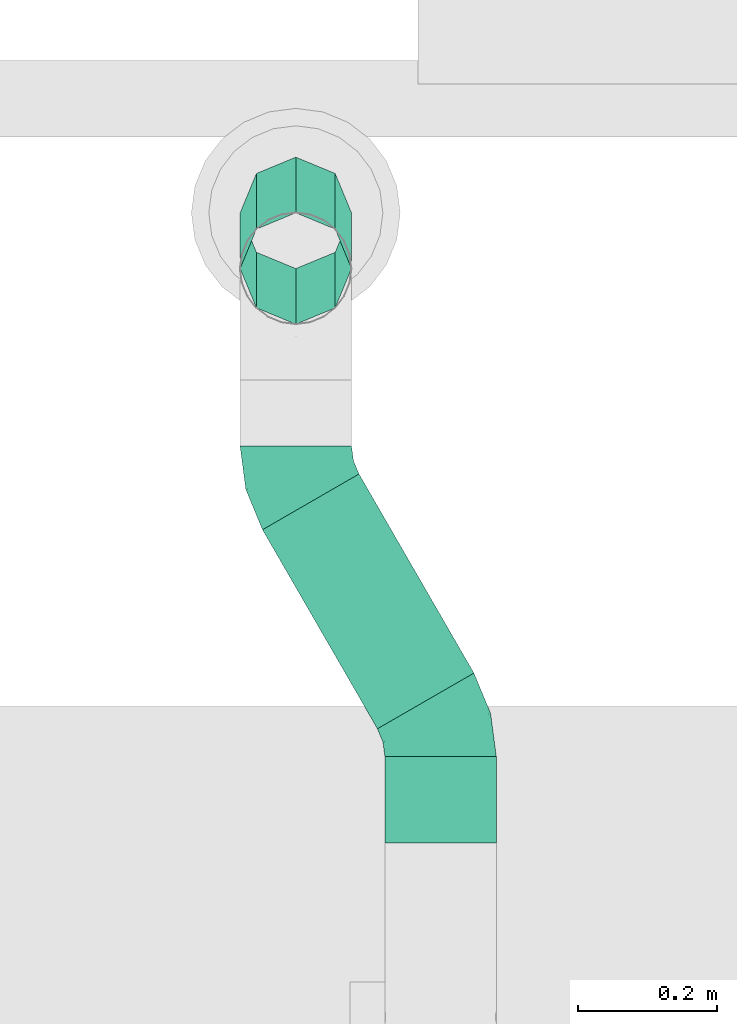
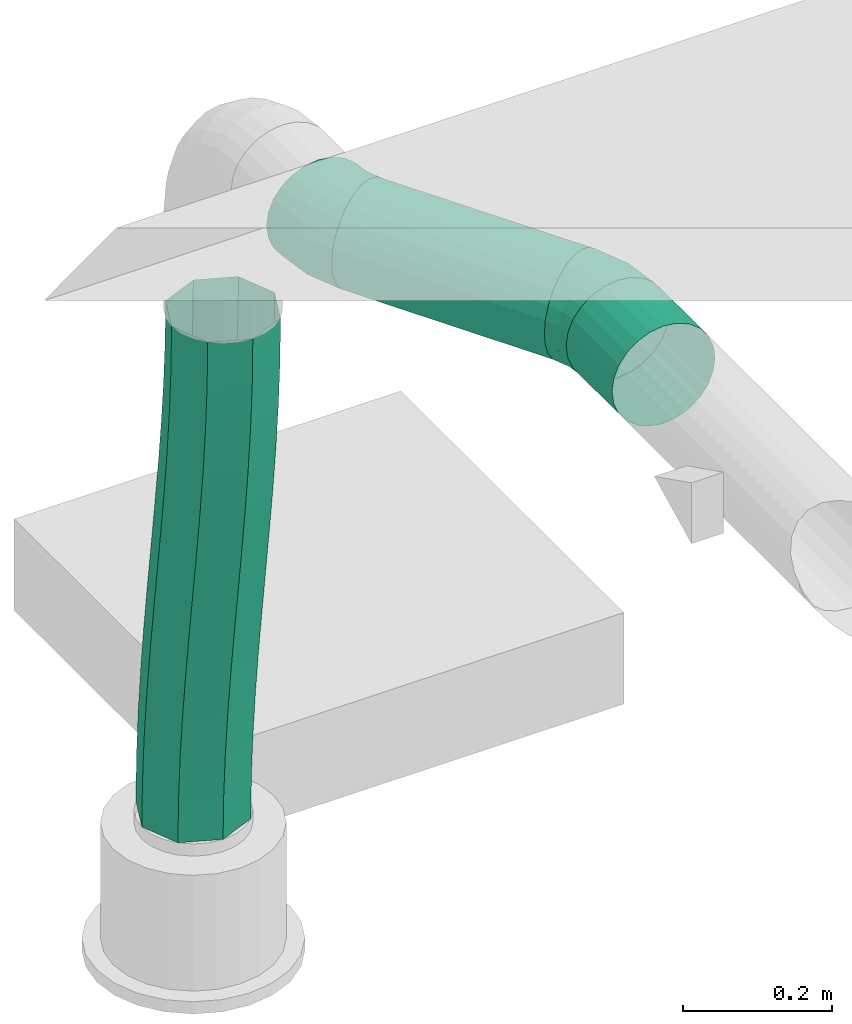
# One storey, part 310 of 374: 3 flow segments, 2 flow fittings.
"""IFC2X3 building model written with IfcOpenShell, lengths in metres."""

from ifc_helpers import new_model, si_unit, direction, origin, place, context, subcontext, project, spatial, open_shell, surface_model, source, transform, mapped, element, save


model = new_model("IFC2X3")

# Units and contexts
model_context = context("Model", 3, precision=1e-05, world=origin(), true_north=direction((-0.4480736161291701, 0.8939966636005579)))
body_context = subcontext(model_context, "Body", "Model", "MODEL_VIEW")
ifc_project = project(units=[si_unit("LENGTHUNIT", "METRE"), si_unit("AREAUNIT", "SQUARE_METRE"), si_unit("VOLUMEUNIT", "CUBIC_METRE"), si_unit("PLANEANGLEUNIT", "RADIAN"), si_unit("THERMODYNAMICTEMPERATUREUNIT", "KELVIN"), si_unit("MASSUNIT", "GRAM", prefix="KILO"), si_unit("TIMEUNIT", "SECOND")], contexts=[model_context])

# Site, building, storey
site_placement = place(None, origin())
site = spatial("IfcSite", under=ifc_project, at=site_placement, Name="Site 1", CompositionType="ELEMENT")
building_placement = place(site_placement, origin())
building = spatial("IfcBuilding", under=site, at=building_placement, Name="Undefined", CompositionType="ELEMENT")
storey_placement = place(building_placement, origin())
storey = spatial("IfcBuildingStorey", under=building, at=storey_placement, Name="Rez de chauss\x8ee", CompositionType="ELEMENT", Elevation=0.0)

# Flow segment
shared_shape_1 = source(origin(), body_context, "Body", "SurfaceModel", [
    surface_model("IfcFaceBasedSurfaceModel", [(0.09425708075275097, 0.0, -7.105427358e-15), (0.05356602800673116, 0.04575228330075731, 0.0), (0.0, 0.0, 0.0), (0.03894014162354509, -0.0472514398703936, -1.1507275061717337e-06), (-0.05541274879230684, -0.04404153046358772, 0.0010358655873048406), (-0.01799366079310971, -0.0925064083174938, 0.001061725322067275), (-0.11243305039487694, -0.0867910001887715, 0.002911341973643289), (-0.07622095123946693, -0.13616420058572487, 0.002975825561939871), (-0.1707571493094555, -0.12862218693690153, 0.005426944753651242), (-0.13541835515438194, -0.1786241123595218, 0.0055283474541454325), (-0.23007333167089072, -0.16991458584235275, 0.00837924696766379), (-0.19526249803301, -0.22028543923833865, 0.008506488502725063), (-0.29006424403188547, -0.21105506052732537, 0.011560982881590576), (-0.2554300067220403, -0.26154747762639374, 0.01169744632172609), (-0.35040835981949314, -0.25243868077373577, 0.01476117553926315), (-0.315597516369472, -0.30280952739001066, 0.014888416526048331), (-0.4107804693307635, -0.294468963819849, 0.01776518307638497), (-0.3754416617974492, -0.3444708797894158, 0.01786658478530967), (-0.4708511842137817, -0.3375576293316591, 0.020354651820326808), (-0.4346390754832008, -0.3869308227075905, 0.020419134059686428), (-0.5302854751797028, -0.3821237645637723, 0.022307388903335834), (-0.49286638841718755, -0.4305886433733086, 0.022333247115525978), (-0.5887403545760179, -0.4285921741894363, 0.02339725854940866), (-0.5498002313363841, -0.4758436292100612, 0.023396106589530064), (-0.6458082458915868, -0.4773427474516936, 0.023394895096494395), (-0.6051172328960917, -0.5230950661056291, 0.02339489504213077), (0.025061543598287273, 0.07834277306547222, -0.043294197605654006), (-0.02777923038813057, 0.03321146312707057, -0.04329372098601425), (-0.08256193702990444, -0.010327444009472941, -0.04226904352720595), (-0.1390822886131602, -0.05270067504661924, -0.040409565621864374), (-0.19704465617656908, -0.09427143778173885, -0.037909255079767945), (-0.2561421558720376, -0.13541102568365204, -0.034967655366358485), (-0.31605992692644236, -0.1765011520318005, -0.03178973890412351), (-0.3764772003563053, -0.21793513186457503, -0.02858572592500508), (-0.4370679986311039, -0.2601182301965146, -0.02557101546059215), (-0.4975004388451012, -0.30346731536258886, -0.022966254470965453), (-0.5574346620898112, -0.34840967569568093, -0.02099751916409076), (-0.6165195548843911, -0.3953806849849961, -0.0198964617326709), (-0.6743126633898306, -0.4447521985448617, -0.019899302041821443), (0.025441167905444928, 0.07868040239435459, -0.10452143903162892), (-0.028124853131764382, 0.032928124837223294, -0.10452143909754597), (-0.08353759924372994, -0.011113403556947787, -0.10348557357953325), (-0.14055790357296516, -0.05386287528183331, -0.10161009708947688), (-0.19888201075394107, -0.09569406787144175, -0.09909449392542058), (-0.2581982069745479, -0.13698647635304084, -0.09614219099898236), (-0.3181891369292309, -0.17812696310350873, -0.09296045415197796), (-0.37853326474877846, -0.21951059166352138, -0.08976026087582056), (-0.4389053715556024, -0.26154087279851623, -0.08675625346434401), (-0.4989760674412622, -0.304629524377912, -0.08416678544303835), (-0.5584103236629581, -0.34919563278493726, -0.08221404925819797), (-0.6168651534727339, -0.39566400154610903, -0.08112418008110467), (-0.6739329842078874, -0.444414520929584, -0.08112654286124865), (0.05448252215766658, 0.04656739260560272, -0.14781563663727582), (-0.0008344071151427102, -0.0006840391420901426, -0.1478167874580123), (-0.05776820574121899, -0.0459390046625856, -0.1467539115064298), (-0.11599550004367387, -0.0895967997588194, -0.14483981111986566), (-0.17519291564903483, -0.13205671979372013, -0.14228728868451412), (-0.23503707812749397, -0.17371806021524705, -0.13930914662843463), (-0.29520461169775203, -0.21498011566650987, -0.13611818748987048), (-0.35537213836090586, -0.25624217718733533, -0.13292721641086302), (-0.4152162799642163, -0.29790352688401, -0.12994904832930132), (-0.47441366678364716, -0.34036345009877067, -0.12739650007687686), (-0.5326409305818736, -0.3840212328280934, -0.12548238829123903), (-0.5895747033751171, -0.429276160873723, -0.12441952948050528), (-0.6448916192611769, -0.476527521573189, -0.124420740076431), (0.09517357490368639, 0.0008151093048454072, -0.1478156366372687), (0.038105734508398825, -0.047935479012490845, -0.14781793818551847), (-0.020349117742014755, -0.09440388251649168, -0.14672805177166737), (-0.07978340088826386, -0.13897000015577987, -0.14477532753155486), (-0.13985412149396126, -0.18205864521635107, -0.14218588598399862), (-0.2002262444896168, -0.22408891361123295, -0.13918190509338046), (-0.26057037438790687, -0.26547253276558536, -0.13598172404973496), (-0.3205612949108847, -0.30661302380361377, -0.13279997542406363), (-0.379877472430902, -0.3479054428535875, -0.12984764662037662), (-0.4382015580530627, -0.3897366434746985, -0.12733201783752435), (-0.49522184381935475, -0.43248611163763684, -0.1254565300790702), (-0.5506345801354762, -0.476527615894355, -0.1244206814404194), (-0.6042006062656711, -0.5222798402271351, -0.12442074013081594), (0.12367805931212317, -0.031775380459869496, -0.1045214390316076), (0.0658849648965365, -0.08114694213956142, -0.10452421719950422), (0.006800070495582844, -0.12811796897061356, -0.10342314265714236), (-0.05313416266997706, -0.17306032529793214, -0.10145441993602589), (-0.11356661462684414, -0.2164093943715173, -0.09884968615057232), (-0.17415742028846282, -0.2585924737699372, -0.09583500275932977), (-0.23457469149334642, -0.3000264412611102, -0.09263100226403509), (-0.294492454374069, -0.3411165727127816, -0.0894530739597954), (-0.35358994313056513, -0.38225617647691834, -0.0865114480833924), (-0.41155230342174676, -0.42382695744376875, -0.08401111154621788), (-0.4680726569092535, -0.4662002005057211, -0.0821516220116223), (-0.5228553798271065, -0.5097391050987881, -0.08112696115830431), (-0.5756961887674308, -0.5548703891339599, -0.0811265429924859), (0.12329843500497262, -0.03211300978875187, -0.043294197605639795), (0.06623058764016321, -0.08086360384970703, -0.043296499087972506), (0.00777573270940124, -0.1273320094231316, -0.042206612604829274), (-0.05165854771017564, -0.1718981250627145, -0.040253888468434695), (-0.1117292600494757, -0.2149867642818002, -0.0376644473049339), (-0.17210136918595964, -0.2570170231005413, -0.03466046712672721), (-0.23244548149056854, -0.2984006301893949, -0.03146028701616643), (-0.2924363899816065, -0.3395411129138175, -0.028278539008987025), (-0.3517525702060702, -0.38083353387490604, -0.025326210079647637), (-0.4100766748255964, -0.4226647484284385, -0.022810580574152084), (-0.46709699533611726, -0.4654142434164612, -0.020935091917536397), (-0.5225097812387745, -0.509455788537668, -0.019899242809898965), (-0.5760758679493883, -0.5552080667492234, -0.019899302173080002)], [open_shell([[[0, 1, 2]], [[2, 3, 0]], [[3, 2, 4]], [[4, 5, 3]], [[5, 4, 6]], [[6, 7, 5]], [[7, 6, 8]], [[8, 9, 7]], [[9, 8, 10]], [[10, 11, 9]], [[11, 10, 12]], [[12, 13, 11]], [[13, 12, 14]], [[14, 15, 13]], [[15, 14, 16]], [[16, 17, 15]], [[17, 16, 18]], [[18, 19, 17]], [[19, 18, 20]], [[20, 21, 19]], [[21, 20, 22]], [[22, 23, 21]], [[23, 22, 24]], [[24, 25, 23]], [[1, 26, 27]], [[27, 2, 1]], [[2, 27, 28]], [[28, 4, 2]], [[4, 28, 29]], [[29, 6, 4]], [[6, 29, 30]], [[30, 8, 6]], [[8, 30, 31]], [[31, 10, 8]], [[10, 31, 32]], [[32, 12, 10]], [[12, 32, 33]], [[33, 14, 12]], [[14, 33, 34]], [[34, 16, 14]], [[16, 34, 35]], [[35, 18, 16]], [[18, 35, 36]], [[36, 20, 18]], [[20, 36, 37]], [[37, 22, 20]], [[22, 37, 38]], [[38, 24, 22]], [[26, 39, 40]], [[40, 27, 26]], [[27, 40, 41]], [[41, 28, 27]], [[28, 41, 42]], [[42, 29, 28]], [[29, 42, 43]], [[43, 30, 29]], [[30, 43, 44]], [[44, 31, 30]], [[31, 44, 45]], [[45, 32, 31]], [[32, 45, 46]], [[46, 33, 32]], [[33, 46, 47]], [[47, 34, 33]], [[34, 47, 48]], [[48, 35, 34]], [[35, 48, 49]], [[49, 36, 35]], [[36, 49, 50]], [[50, 37, 36]], [[37, 50, 51]], [[51, 38, 37]], [[39, 52, 53]], [[53, 40, 39]], [[40, 53, 54]], [[54, 41, 40]], [[41, 54, 55]], [[55, 42, 41]], [[42, 55, 56]], [[56, 43, 42]], [[43, 56, 57]], [[57, 44, 43]], [[44, 57, 58]], [[58, 45, 44]], [[45, 58, 59]], [[59, 46, 45]], [[46, 59, 60]], [[60, 47, 46]], [[47, 60, 61]], [[61, 48, 47]], [[48, 61, 62]], [[62, 49, 48]], [[49, 62, 63]], [[63, 50, 49]], [[50, 63, 64]], [[64, 51, 50]], [[52, 65, 66]], [[66, 53, 52]], [[53, 66, 67]], [[67, 54, 53]], [[54, 67, 68]], [[68, 55, 54]], [[55, 68, 69]], [[69, 56, 55]], [[56, 69, 70]], [[70, 57, 56]], [[57, 70, 71]], [[71, 58, 57]], [[58, 71, 72]], [[72, 59, 58]], [[59, 72, 73]], [[73, 60, 59]], [[60, 73, 74]], [[74, 61, 60]], [[61, 74, 75]], [[75, 62, 61]], [[62, 75, 76]], [[76, 63, 62]], [[63, 76, 77]], [[77, 64, 63]], [[65, 78, 79]], [[79, 66, 65]], [[66, 79, 80]], [[80, 67, 66]], [[67, 80, 81]], [[81, 68, 67]], [[68, 81, 82]], [[82, 69, 68]], [[69, 82, 83]], [[83, 70, 69]], [[70, 83, 84]], [[84, 71, 70]], [[71, 84, 85]], [[85, 72, 71]], [[72, 85, 86]], [[86, 73, 72]], [[73, 86, 87]], [[87, 74, 73]], [[74, 87, 88]], [[88, 75, 74]], [[75, 88, 89]], [[89, 76, 75]], [[76, 89, 90]], [[90, 77, 76]], [[78, 91, 92]], [[92, 79, 78]], [[79, 92, 93]], [[93, 80, 79]], [[80, 93, 94]], [[94, 81, 80]], [[81, 94, 95]], [[95, 82, 81]], [[82, 95, 96]], [[96, 83, 82]], [[83, 96, 97]], [[97, 84, 83]], [[84, 97, 98]], [[98, 85, 84]], [[85, 98, 99]], [[99, 86, 85]], [[86, 99, 100]], [[100, 87, 86]], [[87, 100, 101]], [[101, 88, 87]], [[88, 101, 102]], [[102, 89, 88]], [[89, 102, 103]], [[103, 90, 89]], [[91, 0, 3]], [[3, 92, 91]], [[92, 3, 5]], [[5, 93, 92]], [[93, 5, 7]], [[7, 94, 93]], [[94, 7, 9]], [[9, 95, 94]], [[95, 9, 11]], [[11, 96, 95]], [[96, 11, 13]], [[13, 97, 96]], [[97, 13, 15]], [[15, 98, 97]], [[98, 15, 17]], [[17, 99, 98]], [[99, 17, 19]], [[19, 100, 99]], [[100, 19, 21]], [[21, 101, 100]], [[101, 21, 23]], [[23, 102, 101]], [[102, 23, 25]], [[25, 103, 102]]])]),
])
flow_segment_1_placement = place(storey_placement, origin())
element("IfcFlowSegment", 1, at=flow_segment_1_placement, inside=storey, Name="Tube flexible", ObjectType="Tube flexible", context=body_context, shape_type="MappedRepresentation", body=[
    mapped(shared_shape_1, transform((48.23613901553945, 16.9303909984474, 3.409570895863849), x_axis=(-0.24859099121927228, -0.6163532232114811, 0.7472022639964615), y_axis=(0.29104620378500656, 0.6882384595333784, 0.6645449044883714), z_axis=(-0.9238477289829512, 0.3826702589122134, 0.008297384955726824))),
])

# Flow fitting
shared_shape_2 = source(origin(), body_context, "Body", "SurfaceModel", [
    surface_model("IfcFaceBasedSurfaceModel", [(0.06265257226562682, -8.8817842e-16, 0.0), (0.062296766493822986, 0.02088115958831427, -7.105427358e-15), (0.0003558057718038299, 0.020881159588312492, 7.105427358e-15), (0.0, 0.0, 0.0), (-0.059474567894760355, 0.022956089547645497, -0.015896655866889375), (-0.06051773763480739, 0.002098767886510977, -0.01607928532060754), (0.061253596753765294, 0.04103889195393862, -0.0053597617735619), (0.0013989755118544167, 0.04103889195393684, -0.005359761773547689), (-0.05641614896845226, 0.04304393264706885, -0.02072097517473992), (0.05959415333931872, 0.05909948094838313, -0.01571402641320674), (0.003058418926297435, 0.05909948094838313, -0.01571402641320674), (-0.05155090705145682, 0.06099334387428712, -0.030223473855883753), (0.057431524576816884, 0.07383212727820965, -0.030357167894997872), (0.005221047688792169, 0.07383212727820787, -0.03035716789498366), (-0.0452104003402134, 0.07558110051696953, -0.04375657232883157), (0.054913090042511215, 0.0842328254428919, -0.048291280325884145), (0.007739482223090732, 0.08423282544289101, -0.04829128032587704), (-0.037826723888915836, 0.08581307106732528, -0.06039801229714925), (0.05221047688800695, 0.0895927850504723, -0.06829418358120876), (0.010442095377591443, 0.08959278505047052, -0.06829418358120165), (-0.029903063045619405, 0.09099196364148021, -0.07901370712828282), (0.04950786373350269, 0.08954673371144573, -0.08900271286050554), (0.013144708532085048, 0.08954673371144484, -0.08900271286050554), (-0.02197940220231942, 0.09076484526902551, -0.09833502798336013), (0.04698942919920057, 0.08409780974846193, -0.10900561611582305), (0.015663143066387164, 0.08409780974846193, -0.10900561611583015), (-0.014595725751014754, 0.08514719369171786, -0.11704525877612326), (0.04482680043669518, 0.0736173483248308, -0.12693972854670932), (0.017825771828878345, 0.0736173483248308, -0.12693972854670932), (-0.008255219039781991, 0.07452184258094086, -0.13386932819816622), (0.04316735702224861, 0.058819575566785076, -0.14158287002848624), (0.019485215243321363, 0.058819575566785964, -0.14158287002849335), (-0.0033899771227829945, 0.05961289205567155, -0.14766070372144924), (0.04212418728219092, 0.040712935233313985, -0.15193713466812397), (0.020528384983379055, 0.040712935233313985, -0.15193713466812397), (-0.0003315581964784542, 0.041436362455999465, -0.15747952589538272), (0.04176838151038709, 0.02053136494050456, -0.15729689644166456), (0.020884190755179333, 0.02053136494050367, -0.15729689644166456), (0.0007116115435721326, 0.021230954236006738, -0.16265665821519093), (0.04212418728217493, -0.00034979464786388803, -0.15729689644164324), (0.02052838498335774, -0.0003497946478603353, -0.15729689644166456), (-0.00033155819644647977, 0.0003736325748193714, -0.16283928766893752), (0.04316735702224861, -0.020507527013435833, -0.15193713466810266), (0.019485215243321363, -0.020507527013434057, -0.15193713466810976), (-0.0033899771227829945, -0.019714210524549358, -0.15801496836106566), (0.04482680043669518, -0.03856811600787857, -0.1415828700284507), (0.017825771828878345, -0.03856811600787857, -0.1415828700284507), (-0.008255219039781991, -0.03766362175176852, -0.1485124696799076), (0.04698942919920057, -0.05330076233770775, -0.12693972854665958), (0.015663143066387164, -0.05330076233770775, -0.12693972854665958), (-0.014595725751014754, -0.05225137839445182, -0.1349793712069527), (0.04950786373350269, -0.06370146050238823, -0.10900561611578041), (0.013144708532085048, -0.06370146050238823, -0.10900561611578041), (-0.02197940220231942, -0.06248334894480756, -0.11833793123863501), (0.05221047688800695, -0.06906142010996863, -0.08900271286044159), (0.010442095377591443, -0.06906142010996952, -0.08900271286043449), (-0.029903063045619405, -0.06766224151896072, -0.09972223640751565), (0.054913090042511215, -0.06901536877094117, -0.06829418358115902), (0.007739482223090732, -0.06901536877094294, -0.06829418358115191), (-0.037826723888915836, -0.06743512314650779, -0.08040091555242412), (0.057431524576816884, -0.06356644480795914, -0.0482912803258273), (0.005221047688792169, -0.06356644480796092, -0.04829128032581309), (-0.0452104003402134, -0.061817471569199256, -0.0616906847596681), (0.05959415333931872, -0.05308598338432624, -0.030357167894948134), (0.003058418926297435, -0.05308598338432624, -0.030357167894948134), (-0.05155090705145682, -0.05119212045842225, -0.04486661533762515), (0.061253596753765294, -0.03828821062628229, -0.015714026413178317), (0.0013989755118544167, -0.03828821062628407, -0.015714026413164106), (-0.05641614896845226, -0.03628316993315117, -0.031075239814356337), (0.062296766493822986, -0.020181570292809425, -0.005359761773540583), (0.0003558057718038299, -0.020181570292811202, -0.0053597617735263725), (-0.059474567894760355, -0.018106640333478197, -0.021256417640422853)], [open_shell([[[0, 1, 2, 3]], [[3, 2, 4, 5]], [[1, 6, 7, 2]], [[2, 7, 8, 4]], [[6, 9, 10, 7]], [[7, 10, 11, 8]], [[9, 12, 13, 10]], [[10, 13, 14, 11]], [[12, 15, 16, 13]], [[13, 16, 17, 14]], [[15, 18, 19, 16]], [[16, 19, 20, 17]], [[18, 21, 22, 19]], [[19, 22, 23, 20]], [[21, 24, 25, 22]], [[22, 25, 26, 23]], [[24, 27, 28, 25]], [[25, 28, 29, 26]], [[27, 30, 31, 28]], [[28, 31, 32, 29]], [[30, 33, 34, 31]], [[31, 34, 35, 32]], [[33, 36, 37, 34]], [[34, 37, 38, 35]], [[36, 39, 40, 37]], [[37, 40, 41, 38]], [[39, 42, 43, 40]], [[40, 43, 44, 41]], [[42, 45, 46, 43]], [[43, 46, 47, 44]], [[45, 48, 49, 46]], [[46, 49, 50, 47]], [[48, 51, 52, 49]], [[49, 52, 53, 50]], [[51, 54, 55, 52]], [[52, 55, 56, 53]], [[54, 57, 58, 55]], [[55, 58, 59, 56]], [[57, 60, 61, 58]], [[58, 61, 62, 59]], [[60, 63, 64, 61]], [[61, 64, 65, 62]], [[63, 66, 67, 64]], [[64, 67, 68, 65]], [[66, 69, 70, 67]], [[67, 70, 71, 68]], [[69, 0, 3, 70]], [[70, 3, 5, 71]]])]),
])
flow_fitting_1_placement = place(storey_placement, origin())
element("IfcFlowFitting", 2, at=flow_fitting_1_placement, inside=storey, Name="Coude", ObjectType="Coude", context=body_context, shape_type="MappedRepresentation", body=[
    mapped(shared_shape_2, transform((48.22088535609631, 16.555178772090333, 3.8000000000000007), x_axis=(-0.13052619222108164, 0.9914448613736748, 0.0), y_axis=(0.12832103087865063, 0.01689378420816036, -0.9915887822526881), z_axis=(-0.9831056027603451, -0.1294283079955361, -0.12942830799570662))),
])

# Flow segment
shared_shape_3 = source(origin(), body_context, "Body", "SurfaceModel", [
    surface_model("IfcFaceBasedSurfaceModel", [(0.0, 0.020884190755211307, 0.0), (0.0, 0.0, 0.0), (0.3300458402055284, 0.0, 8.8817842e-16), (0.33004584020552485, 0.0208841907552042, 1.33226763e-15), (0.0, -0.020172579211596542, -0.005405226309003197), (0.33004584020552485, -0.020172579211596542, -0.005405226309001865), (0.0, -0.03825881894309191, -0.015847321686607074), (0.3300458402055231, -0.038258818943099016, -0.015847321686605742), (0.0, -0.05302617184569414, -0.0306146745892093), (0.3300458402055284, -0.05302617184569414, -0.03061467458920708), (0.0, -0.06346826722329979, -0.04870091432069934), (0.3300458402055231, -0.06346826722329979, -0.04870091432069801), (0.0, -0.06887349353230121, -0.06887349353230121), (0.3300458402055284, -0.06887349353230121, -0.06887349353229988), (0.0, -0.06887349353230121, -0.08975768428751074), (0.3300458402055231, -0.06887349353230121, -0.08975768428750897), (0.0, -0.06346826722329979, -0.10993026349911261), (0.3300458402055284, -0.06346826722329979, -0.10993026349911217), (0.0, -0.05302617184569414, -0.12801650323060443), (0.3300458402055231, -0.05302617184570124, -0.12801650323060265), (0.0, -0.038258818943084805, -0.14278385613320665), (0.33004584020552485, -0.038258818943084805, -0.14278385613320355), (0.0, -0.020172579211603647, -0.15322595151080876), (0.3300458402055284, -0.020172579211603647, -0.15322595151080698), (0.0, 7.105427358e-15, -0.15863117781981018), (0.33004584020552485, 0.0, -0.1586311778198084), (0.0, 0.020884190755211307, -0.15863117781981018), (0.3300458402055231, 0.020884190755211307, -0.1586311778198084), (0.0, 0.04105676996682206, -0.15322595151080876), (0.33004584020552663, 0.041056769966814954, -0.15322595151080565), (0.0, 0.05914300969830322, -0.1427838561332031), (0.3300458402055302, 0.05914300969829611, -0.14278385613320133), (0.0, 0.07391036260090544, -0.12801650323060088), (0.33004584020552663, 0.07391036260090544, -0.12801650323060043), (0.0, 0.0843524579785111, -0.10993026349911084), (0.3300458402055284, 0.08435245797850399, -0.10993026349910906), (0.0, 0.08975768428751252, -0.08975768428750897), (0.33004584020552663, 0.08975768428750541, -0.08975768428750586), (0.0, 0.08975768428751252, -0.06887349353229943), (0.3300458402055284, 0.08975768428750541, -0.0688734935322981), (0.0, 0.0843524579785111, -0.048700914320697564), (0.33004584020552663, 0.0843524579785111, -0.04870091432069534), (0.0, 0.07391036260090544, -0.030614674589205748), (0.3300458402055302, 0.07391036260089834, -0.030614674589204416), (0.0, 0.05914300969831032, -0.015847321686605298), (0.33004584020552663, 0.05914300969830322, -0.015847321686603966), (0.0, 0.04105676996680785, -0.005405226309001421), (0.3300458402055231, 0.041056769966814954, -0.005405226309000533)], [open_shell([[[0, 1, 2, 3]], [[1, 4, 5, 2]], [[4, 6, 7, 5]], [[6, 8, 9, 7]], [[8, 10, 11, 9]], [[10, 12, 13, 11]], [[12, 14, 15, 13]], [[14, 16, 17, 15]], [[16, 18, 19, 17]], [[18, 20, 21, 19]], [[20, 22, 23, 21]], [[22, 24, 25, 23]], [[24, 26, 27, 25]], [[26, 28, 29, 27]], [[28, 30, 31, 29]], [[30, 32, 33, 31]], [[32, 34, 35, 33]], [[34, 36, 37, 35]], [[36, 38, 39, 37]], [[38, 40, 41, 39]], [[40, 42, 43, 41]], [[42, 44, 45, 43]], [[44, 46, 47, 45]], [[46, 0, 3, 47]]])]),
])
flow_segment_2_placement = place(storey_placement, origin())
element("IfcFlowSegment", 3, at=flow_segment_2_placement, inside=storey, Name="Tube", ObjectType="Tube", context=body_context, shape_type="MappedRepresentation", body=[
    mapped(shared_shape_3, transform((48.332074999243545, 16.547648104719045, 3.7227259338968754), x_axis=(0.5000000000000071, -0.8660254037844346, 0.0), y_axis=(-0.8586164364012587, -0.4957224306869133, -0.13052619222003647), z_axis=(0.11303899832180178, 0.06526309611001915, -0.9914448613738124))),
])

# Flow fitting
shared_shape_4 = source(origin(), body_context, "Body", "SurfaceModel", [
    surface_model("IfcFaceBasedSurfaceModel", [(0.06265257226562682, -8.8817842e-16, 0.0), (0.062296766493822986, 0.02088115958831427, -7.105427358e-15), (0.0003558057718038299, 0.020881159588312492, 7.105427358e-15), (0.0, 0.0, 0.0), (-0.059474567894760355, 0.022956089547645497, -0.015896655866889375), (-0.06051773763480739, 0.002098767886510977, -0.01607928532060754), (0.061253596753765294, 0.04103889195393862, -0.0053597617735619), (0.0013989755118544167, 0.04103889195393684, -0.005359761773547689), (-0.05641614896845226, 0.04304393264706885, -0.02072097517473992), (0.05959415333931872, 0.05909948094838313, -0.01571402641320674), (0.003058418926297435, 0.05909948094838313, -0.01571402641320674), (-0.05155090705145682, 0.06099334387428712, -0.030223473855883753), (0.057431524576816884, 0.07383212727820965, -0.030357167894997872), (0.005221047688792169, 0.07383212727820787, -0.03035716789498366), (-0.0452104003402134, 0.07558110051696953, -0.04375657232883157), (0.054913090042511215, 0.0842328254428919, -0.048291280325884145), (0.007739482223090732, 0.08423282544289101, -0.04829128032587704), (-0.037826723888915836, 0.08581307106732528, -0.06039801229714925), (0.05221047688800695, 0.0895927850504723, -0.06829418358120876), (0.010442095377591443, 0.08959278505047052, -0.06829418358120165), (-0.029903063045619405, 0.09099196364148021, -0.07901370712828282), (0.04950786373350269, 0.08954673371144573, -0.08900271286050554), (0.013144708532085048, 0.08954673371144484, -0.08900271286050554), (-0.02197940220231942, 0.09076484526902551, -0.09833502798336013), (0.04698942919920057, 0.08409780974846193, -0.10900561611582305), (0.015663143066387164, 0.08409780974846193, -0.10900561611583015), (-0.014595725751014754, 0.08514719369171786, -0.11704525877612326), (0.04482680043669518, 0.0736173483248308, -0.12693972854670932), (0.017825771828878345, 0.0736173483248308, -0.12693972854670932), (-0.008255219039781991, 0.07452184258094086, -0.13386932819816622), (0.04316735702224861, 0.058819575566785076, -0.14158287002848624), (0.019485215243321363, 0.058819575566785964, -0.14158287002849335), (-0.0033899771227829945, 0.05961289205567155, -0.14766070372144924), (0.04212418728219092, 0.040712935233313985, -0.15193713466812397), (0.020528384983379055, 0.040712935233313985, -0.15193713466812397), (-0.0003315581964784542, 0.041436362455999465, -0.15747952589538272), (0.04176838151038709, 0.02053136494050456, -0.15729689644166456), (0.020884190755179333, 0.02053136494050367, -0.15729689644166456), (0.0007116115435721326, 0.021230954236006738, -0.16265665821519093), (0.04212418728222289, -0.000349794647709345, -0.15729689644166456), (0.02052838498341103, -0.000349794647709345, -0.15729689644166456), (-0.0003315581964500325, 0.00037363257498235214, -0.16283928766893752), (0.04316735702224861, -0.020507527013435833, -0.15193713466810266), (0.019485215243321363, -0.020507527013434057, -0.15193713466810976), (-0.0033899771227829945, -0.019714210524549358, -0.15801496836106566), (0.04482680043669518, -0.03856811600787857, -0.1415828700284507), (0.017825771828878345, -0.03856811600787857, -0.1415828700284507), (-0.008255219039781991, -0.03766362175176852, -0.1485124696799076), (0.04698942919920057, -0.05330076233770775, -0.12693972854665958), (0.015663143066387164, -0.05330076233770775, -0.12693972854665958), (-0.014595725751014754, -0.05225137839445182, -0.1349793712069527), (0.04950786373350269, -0.06370146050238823, -0.10900561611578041), (0.013144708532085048, -0.06370146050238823, -0.10900561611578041), (-0.02197940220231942, -0.06248334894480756, -0.11833793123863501), (0.05221047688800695, -0.06906142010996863, -0.08900271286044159), (0.010442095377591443, -0.06906142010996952, -0.08900271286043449), (-0.029903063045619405, -0.06766224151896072, -0.09972223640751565), (0.054913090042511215, -0.06901536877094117, -0.06829418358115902), (0.007739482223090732, -0.06901536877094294, -0.06829418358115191), (-0.037826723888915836, -0.06743512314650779, -0.08040091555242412), (0.057431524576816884, -0.06356644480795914, -0.0482912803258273), (0.005221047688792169, -0.06356644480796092, -0.04829128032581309), (-0.0452104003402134, -0.061817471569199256, -0.0616906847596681), (0.05959415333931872, -0.05308598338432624, -0.030357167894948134), (0.003058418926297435, -0.05308598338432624, -0.030357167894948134), (-0.05155090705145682, -0.05119212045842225, -0.04486661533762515), (0.061253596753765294, -0.03828821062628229, -0.015714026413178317), (0.0013989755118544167, -0.03828821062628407, -0.015714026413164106), (-0.05641614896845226, -0.03628316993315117, -0.031075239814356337), (0.062296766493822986, -0.020181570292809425, -0.005359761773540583), (0.0003558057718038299, -0.020181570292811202, -0.0053597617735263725), (-0.059474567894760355, -0.018106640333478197, -0.021256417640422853)], [open_shell([[[0, 1, 2, 3]], [[3, 2, 4, 5]], [[1, 6, 7, 2]], [[2, 7, 8, 4]], [[6, 9, 10, 7]], [[7, 10, 11, 8]], [[9, 12, 13, 10]], [[10, 13, 14, 11]], [[12, 15, 16, 13]], [[13, 16, 17, 14]], [[15, 18, 19, 16]], [[16, 19, 20, 17]], [[18, 21, 22, 19]], [[19, 22, 23, 20]], [[21, 24, 25, 22]], [[22, 25, 26, 23]], [[24, 27, 28, 25]], [[25, 28, 29, 26]], [[27, 30, 31, 28]], [[28, 31, 32, 29]], [[30, 33, 34, 31]], [[31, 34, 35, 32]], [[33, 36, 37, 34]], [[34, 37, 38, 35]], [[36, 39, 40, 37]], [[37, 40, 41, 38]], [[39, 42, 43, 40]], [[40, 43, 44, 41]], [[42, 45, 46, 43]], [[43, 46, 47, 44]], [[45, 48, 49, 46]], [[46, 49, 50, 47]], [[48, 51, 52, 49]], [[49, 52, 53, 50]], [[51, 54, 55, 52]], [[52, 55, 56, 53]], [[54, 57, 58, 55]], [[55, 58, 59, 56]], [[57, 60, 61, 58]], [[58, 61, 62, 59]], [[60, 63, 64, 61]], [[61, 64, 65, 62]], [[63, 66, 67, 64]], [[64, 67, 68, 65]], [[66, 69, 70, 67]], [[67, 70, 71, 68]], [[69, 0, 3, 70]], [[70, 3, 5, 71]]])]),
])
flow_fitting_2_placement = place(storey_placement, origin())
element("IfcFlowFitting", 4, at=flow_fitting_2_placement, inside=storey, Name="Coude", ObjectType="Coude", context=body_context, shape_type="MappedRepresentation", body=[
    mapped(shared_shape_4, transform((48.572424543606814, 16.233583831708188, 3.8000000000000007), x_axis=(-0.38268343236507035, 0.9238795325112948, 0.0), y_axis=(-0.11957616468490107, -0.04953006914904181, 0.9915887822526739), z_axis=(0.9161085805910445, 0.3794645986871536, 0.1294283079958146))),
])

# Flow segment
shared_shape_5 = source(origin(), body_context, "Body", "SurfaceModel", [
    surface_model("IfcFaceBasedSurfaceModel", [(0.0, 0.020884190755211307, 0.0), (0.0, 0.0, 0.0), (0.12379991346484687, 0.0, -4.4408921e-16), (0.12379991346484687, 0.020884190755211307, -4.4408921e-16), (0.0, -0.020172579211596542, -0.005405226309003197), (0.12379991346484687, -0.020172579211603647, -0.005405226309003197), (0.0, -0.03825881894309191, -0.015847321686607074), (0.12379991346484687, -0.038258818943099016, -0.01584732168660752), (0.0, -0.05302617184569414, -0.0306146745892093), (0.12379991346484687, -0.05302617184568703, -0.0306146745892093), (0.0, -0.06346826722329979, -0.04870091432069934), (0.12379991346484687, -0.06346826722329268, -0.04870091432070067), (0.0, -0.06887349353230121, -0.06887349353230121), (0.12379991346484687, -0.06887349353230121, -0.06887349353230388), (0.0, -0.06887349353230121, -0.08975768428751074), (0.12379991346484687, -0.0688734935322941, -0.08975768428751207), (0.0, -0.06346826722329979, -0.10993026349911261), (0.12379991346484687, -0.06346826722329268, -0.10993026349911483), (0.0, -0.05302617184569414, -0.12801650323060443), (0.12379991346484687, -0.05302617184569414, -0.12801650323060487), (0.0, -0.038258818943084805, -0.14278385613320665), (0.12379991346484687, -0.038258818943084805, -0.14278385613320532), (0.0, -0.020172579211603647, -0.15322595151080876), (0.12379991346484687, -0.020172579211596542, -0.15322595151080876), (0.0, 7.105427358e-15, -0.15863117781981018), (0.12379991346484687, 7.105427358e-15, -0.15863117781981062), (0.0, 0.020884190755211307, -0.15863117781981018), (0.12379991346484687, 0.020884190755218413, -0.1586311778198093), (0.0, 0.04105676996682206, -0.15322595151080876), (0.12379991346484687, 0.04105676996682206, -0.15322595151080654), (0.0, 0.05914300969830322, -0.1427838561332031), (0.12379991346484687, 0.05914300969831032, -0.14278385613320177), (0.0, 0.07391036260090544, -0.12801650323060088), (0.12379991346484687, 0.07391036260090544, -0.12801650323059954), (0.0, 0.0843524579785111, -0.10993026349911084), (0.12379991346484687, 0.0843524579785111, -0.10993026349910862), (0.0, 0.08975768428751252, -0.08975768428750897), (0.12379991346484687, 0.08975768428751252, -0.08975768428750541), (0.0, 0.08975768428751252, -0.06887349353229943), (0.12379991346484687, 0.08975768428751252, -0.06887349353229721), (0.0, 0.0843524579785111, -0.048700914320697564), (0.12379991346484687, 0.0843524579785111, -0.04870091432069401), (0.0, 0.07391036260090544, -0.030614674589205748), (0.12379991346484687, 0.07391036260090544, -0.030614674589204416), (0.0, 0.05914300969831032, -0.015847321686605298), (0.12379991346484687, 0.05914300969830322, -0.01584732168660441), (0.0, 0.04105676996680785, -0.005405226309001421), (0.12379991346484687, 0.041056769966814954, -0.005405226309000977)], [open_shell([[[0, 1, 2, 3]], [[1, 4, 5, 2]], [[4, 6, 7, 5]], [[6, 8, 9, 7]], [[8, 10, 11, 9]], [[10, 12, 13, 11]], [[12, 14, 15, 13]], [[14, 16, 17, 15]], [[16, 18, 19, 17]], [[18, 20, 21, 19]], [[20, 22, 23, 21]], [[22, 24, 25, 23]], [[24, 26, 27, 25]], [[26, 28, 29, 27]], [[28, 30, 31, 29]], [[30, 32, 33, 31]], [[32, 34, 35, 33]], [[34, 36, 37, 35]], [[36, 38, 39, 37]], [[38, 40, 41, 39]], [[40, 42, 43, 41]], [[42, 44, 45, 43]], [[44, 46, 47, 45]], [[46, 0, 3, 47]]])]),
])
flow_segment_3_placement = place(storey_placement, origin())
element("IfcFlowSegment", 5, at=flow_segment_3_placement, inside=storey, Name="Tube", ObjectType="Tube", context=body_context, shape_type="MappedRepresentation", body=[
    mapped(shared_shape_5, transform((48.47989682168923, 16.171467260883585, 3.877274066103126), x_axis=(0.0, -1.0, 0.0), y_axis=(0.9914448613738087, 0.0, 0.13052619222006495), z_axis=(-0.13052619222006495, 0.0, 0.9914448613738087))),
])

save(model, "model.ifc")
